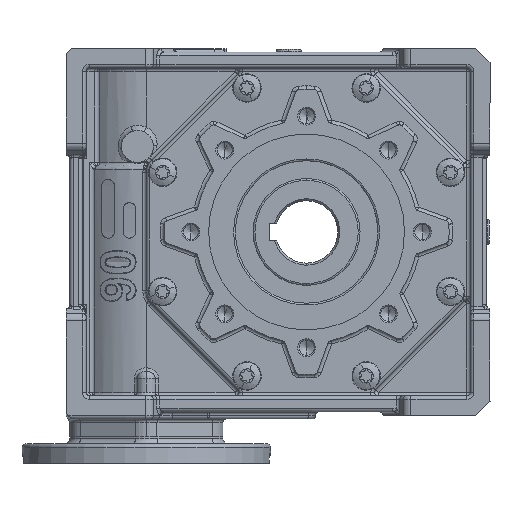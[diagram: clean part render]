
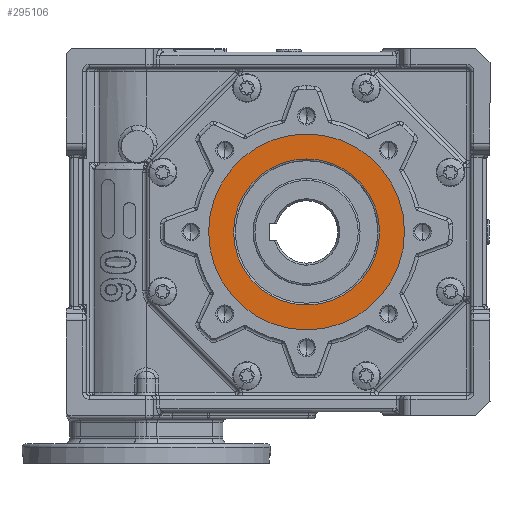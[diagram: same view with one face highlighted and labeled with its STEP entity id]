
A CAD part, left-side view. The second image highlights one B-rep face of the part: STEP entity #295106.
In plain terms, the highlighted planar face has unit normal (-1, 0, 0).
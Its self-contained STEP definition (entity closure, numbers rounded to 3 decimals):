
#195026 = CARTESIAN_POINT ( 'NONE',  ( -70., 0., -55. ) ) ;
#195328 = CARTESIAN_POINT ( 'NONE',  ( -70., 0., 55. ) ) ;
#195331 = DIRECTION ( 'NONE',  ( 0., 0., -1. ) ) ;
#195334 = DIRECTION ( 'NONE',  ( 1., 0., 0. ) ) ;
#195337 = CARTESIAN_POINT ( 'NONE',  ( -70., 0., 0. ) ) ;
#195340 = AXIS2_PLACEMENT_3D ( 'NONE', #195337, #195334, #195331 ) ;
#195343 = CIRCLE ( 'NONE', #195340, 55. ) ;
#199477 = CARTESIAN_POINT ( 'NONE',  ( -70., 0., 41. ) ) ;
#199481 = DIRECTION ( 'NONE',  ( 0., 0., 1. ) ) ;
#199483 = DIRECTION ( 'NONE',  ( -1., 0., 0. ) ) ;
#199485 = CARTESIAN_POINT ( 'NONE',  ( -70., 0., 0. ) ) ;
#199487 = AXIS2_PLACEMENT_3D ( 'NONE', #199485, #199483, #199481 ) ;
#199490 = CIRCLE ( 'NONE', #199487, 41. ) ;
#199500 = CARTESIAN_POINT ( 'NONE',  ( -70., 0., -41. ) ) ;
#206832 = FACE_OUTER_BOUND ( 'NONE', #295076, .T. ) ;
#206951 = DIRECTION ( 'NONE',  ( 0., 0., 1. ) ) ;
#206953 = DIRECTION ( 'NONE',  ( -1., 0., 0. ) ) ;
#206957 = CARTESIAN_POINT ( 'NONE',  ( -70., 0., 0. ) ) ;
#206958 = AXIS2_PLACEMENT_3D ( 'NONE', #206957, #206953, #206951 ) ;
#206961 = CIRCLE ( 'NONE', #206958, 41. ) ;
#206969 = DIRECTION ( 'NONE',  ( 0., 0., -1. ) ) ;
#206972 = DIRECTION ( 'NONE',  ( 1., 0., 0. ) ) ;
#206976 = CARTESIAN_POINT ( 'NONE',  ( -70., 0., 0. ) ) ;
#206979 = AXIS2_PLACEMENT_3D ( 'NONE', #206976, #206972, #206969 ) ;
#206995 = CIRCLE ( 'NONE', #206979, 55. ) ;
#207024 = DIRECTION ( 'NONE',  ( 0., 0., -1. ) ) ;
#207027 = DIRECTION ( 'NONE',  ( -1., 0., 0. ) ) ;
#207030 = CARTESIAN_POINT ( 'NONE',  ( -70., 0., 0. ) ) ;
#207033 = AXIS2_PLACEMENT_3D ( 'NONE', #207030, #207027, #207024 ) ;
#207036 = PLANE ( 'NONE',  #207033 ) ;
#207042 = FACE_BOUND ( 'NONE', #295114, .T. ) ;
#230796 = VERTEX_POINT ( 'NONE', #199500 ) ;
#230800 = EDGE_CURVE ( 'NONE', #230796, #230802, #199490, .T. ) ;
#230802 = VERTEX_POINT ( 'NONE', #199477 ) ;
#294577 = VERTEX_POINT ( 'NONE', #195026 ) ;
#294605 = EDGE_CURVE ( 'NONE', #294577, #294607, #195343, .T. ) ;
#294607 = VERTEX_POINT ( 'NONE', #195328 ) ;
#295076 = EDGE_LOOP ( 'NONE', ( #295108, #295111 ) ) ;
#295106 = ADVANCED_FACE ( 'NONE', ( #206832, #207042 ), #207036, .T. ) ;
#295108 = ORIENTED_EDGE ( 'NONE', *, *, #294605, .F. ) ;
#295111 = ORIENTED_EDGE ( 'NONE', *, *, #295113, .F. ) ;
#295113 = EDGE_CURVE ( 'NONE', #294607, #294577, #206995, .T. ) ;
#295114 = EDGE_LOOP ( 'NONE', ( #295116, #295119 ) ) ;
#295116 = ORIENTED_EDGE ( 'NONE', *, *, #295117, .F. ) ;
#295117 = EDGE_CURVE ( 'NONE', #230802, #230796, #206961, .T. ) ;
#295119 = ORIENTED_EDGE ( 'NONE', *, *, #230800, .F. ) ;
